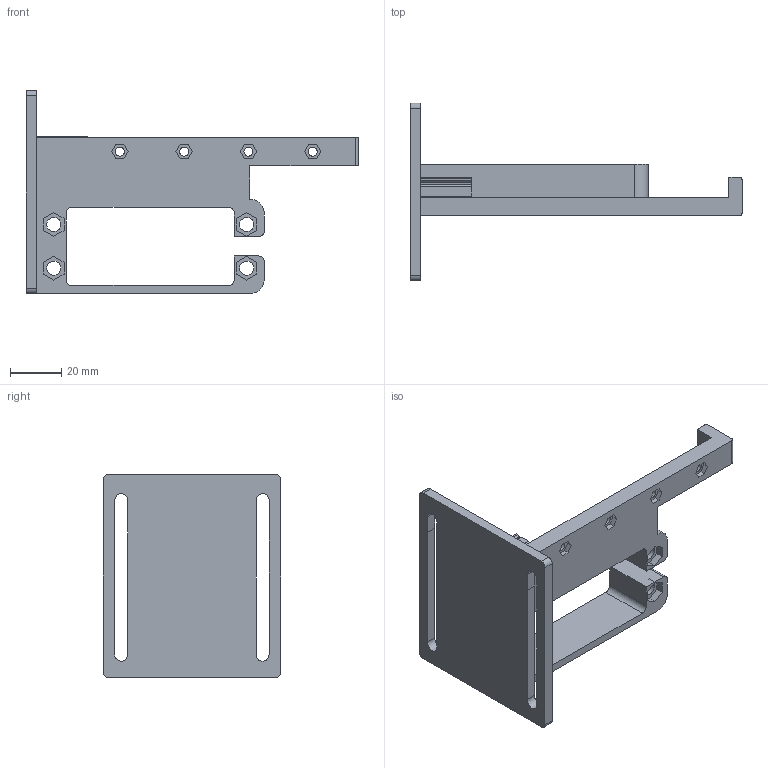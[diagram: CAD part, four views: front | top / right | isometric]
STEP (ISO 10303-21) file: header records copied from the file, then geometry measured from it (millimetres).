
FILE_DESCRIPTION(/* description */ (''),/* implementation_level */ '2;1');
FILE_NAME(/* name */ 'slider holder.step',/* time_stamp */ '2025-06-16T02:14:33-07:00',/* author */ (''),/* organization */ (''),/* preprocessor_version */ 'ST-DEVELOPER v20.1',/* originating_system */ 'Autodesk Translation Framework v14.10.0.0',/* authorisation */ '');
FILE_SCHEMA (('AUTOMOTIVE_DESIGN { 1 0 10303 214 3 1 1 }'));
Length unit declared in the file: millimetre
Products named in the file (1): slider holder
Bounding box: 129.1 x 69 x 78.86 mm (x, y, z)
Volume: 59129.8 mm3; surface area: 29304.5 mm2
Topology: 1 solids, 1 shells, 145 faces, 402 edges, 268 vertices
Faces by surface type: plane 109, cylinder 36
Full cylindrical faces by diameter (mm): 3.5 x4, 5.5 x4
Entity records: 4681 total; most frequent: CARTESIAN_POINT 816, ORIENTED_EDGE 804, DIRECTION 766, EDGE_CURVE 402, LINE 330, VECTOR 330, VERTEX_POINT 268, AXIS2_PLACEMENT_3D 218
